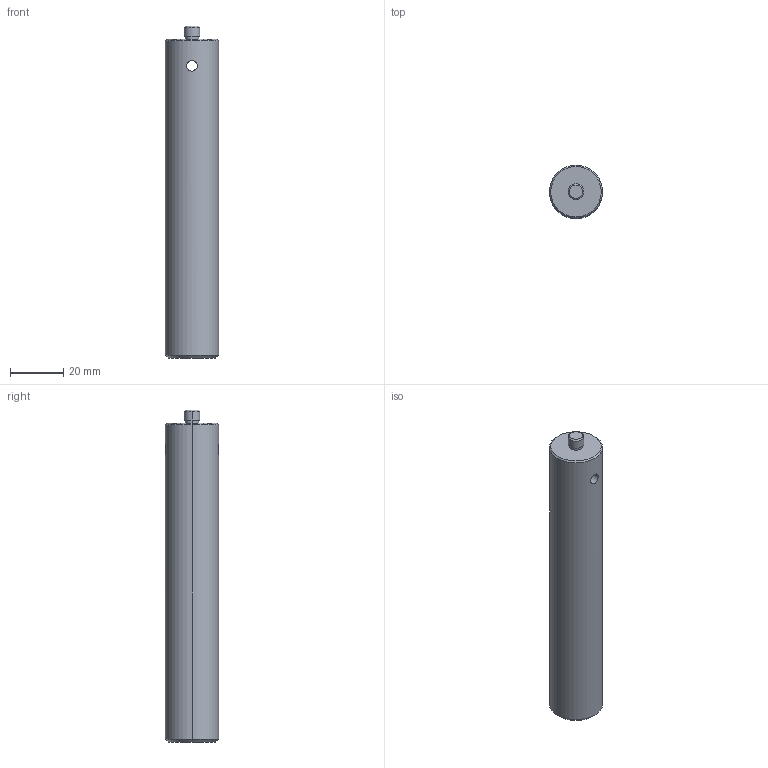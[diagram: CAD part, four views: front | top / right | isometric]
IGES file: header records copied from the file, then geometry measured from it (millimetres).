
Global section: file name: No Iges File Name specified; native system: AutoDesk Inventor R11.0; preprocessor: AutoDesk Inventor Iges Exporter R11.0; author: No Author specified; organization: No Organization specified; date: 20071024.154945; units: millimetre
Bounding box: 20 x 20 x 125 mm (x, y, z)
Volume: 37539.8 mm3; surface area: 8436.8 mm2
Topology: 1 solids, 1 shells, 18 faces, 38 edges, 24 vertices
Faces by surface type: cylinder 6, cone 6, plane 4, revolution 2
